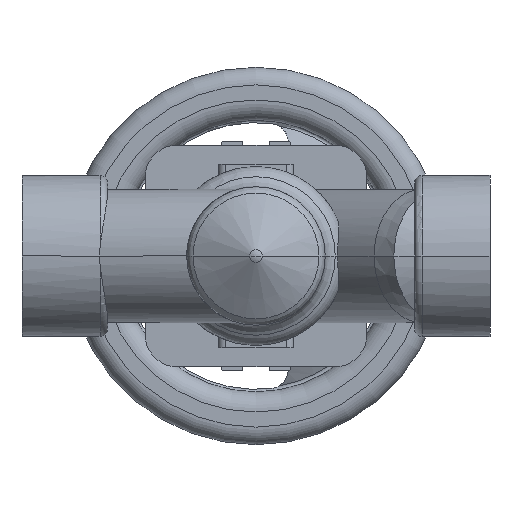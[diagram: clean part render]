
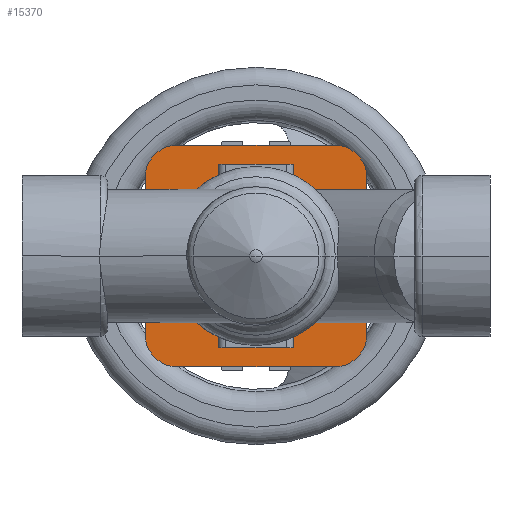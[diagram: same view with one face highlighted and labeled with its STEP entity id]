
A CAD part, front view. The second image highlights one B-rep face of the part: STEP entity #15370.
In plain terms, the highlighted planar face has unit normal (0, -1, 0).
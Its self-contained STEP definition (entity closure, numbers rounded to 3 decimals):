
#3360=CARTESIAN_POINT('',(78.,56.5,32.175));
#3370=VERTEX_POINT('',#3360);
#3990=CARTESIAN_POINT('',(108.,56.5,32.175));
#4000=VERTEX_POINT('',#3990);
#4030=CARTESIAN_POINT('',(93.,56.5,0.));
#4040=DIRECTION('',(0.,1.,0.));
#4050=DIRECTION('',(1.,0.,0.));
#4060=AXIS2_PLACEMENT_3D('',#4030,#4040,#4050);
#4070=CIRCLE('',#4060,35.5);
#4080=CARTESIAN_POINT('',(118.775,56.5,24.411));
#4090=VERTEX_POINT('',#4080);
#4100=EDGE_CURVE('',#4000,#4090,#4070,.T.);
#5050=CARTESIAN_POINT('',(57.5,56.5,0.));
#5060=VERTEX_POINT('',#5050);
#5090=CARTESIAN_POINT('',(93.,56.5,0.));
#5100=DIRECTION('',(0.,1.,0.));
#5110=DIRECTION('',(1.,0.,0.));
#5120=AXIS2_PLACEMENT_3D('',#5090,#5100,#5110);
#5130=CIRCLE('',#5120,35.5);
#5140=EDGE_CURVE('',#5060,#3370,#5130,.T.);
#9120=CARTESIAN_POINT('',(137.113,56.5,-12.24));
#9130=VERTEX_POINT('',#9120);
#9160=CARTESIAN_POINT('',(104.439,56.5,0.));
#9170=DIRECTION('',(0.,1.,0.));
#9180=DIRECTION('',(-1.,0.,0.));
#9190=AXIS2_PLACEMENT_3D('',#9160,#9170,#9180);
#9200=ELLIPSE('',#9190,36.839,26.5);
#9210=CARTESIAN_POINT('',(118.775,56.5,-24.411));
#9220=VERTEX_POINT('',#9210);
#9230=EDGE_CURVE('',#9130,#9220,#9200,.T.);
#11230=CARTESIAN_POINT('',(108.,56.5,-36.5));
#11240=VERTEX_POINT('',#11230);
#11270=CARTESIAN_POINT('',(116.375,56.5,-36.5));
#11280=DIRECTION('',(-1.,0.,0.));
#11290=VECTOR('',#11280,1.);
#11300=LINE('',#11270,#11290);
#11310=CARTESIAN_POINT('',(78.,56.5,-36.5));
#11320=VERTEX_POINT('',#11310);
#11330=EDGE_CURVE('',#11240,#11320,#11300,.T.);
#12540=CARTESIAN_POINT('',(108.,56.5,18.25));
#12550=DIRECTION('',(0.,0.,-1.));
#12560=VECTOR('',#12550,1.);
#12570=LINE('',#12540,#12560);
#12580=CARTESIAN_POINT('',(108.,56.5,-32.175));
#12590=VERTEX_POINT('',#12580);
#12600=EDGE_CURVE('',#12590,#11240,#12570,.T.);
#14030=CARTESIAN_POINT('',(139.75,56.5,0.));
#14040=DIRECTION('',(0.,-1.,0.));
#14050=DIRECTION('',(-1.,0.,0.));
#14060=AXIS2_PLACEMENT_3D('',#14030,#14040,#14050);
#14070=PLANE('',#14060);
#14080=CARTESIAN_POINT('',(137.113,56.5,-15.556));
#14090=DIRECTION('',(0.,0.,1.));
#14100=VECTOR('',#14090,1.);
#14110=LINE('',#14080,#14100);
#14120=CARTESIAN_POINT('',(137.113,56.5,-31.113));
#14130=VERTEX_POINT('',#14120);
#14140=EDGE_CURVE('',#14130,#9130,#14110,.T.);
#14150=ORIENTED_EDGE('',*,*,#14140,.T.);
#14160=CARTESIAN_POINT('',(124.113,56.5,-31.113));
#14170=DIRECTION('',(0.,-1.,0.));
#14180=DIRECTION('',(1.,0.,0.));
#14190=AXIS2_PLACEMENT_3D('',#14160,#14170,#14180);
#14200=CIRCLE('',#14190,13.);
#14210=CARTESIAN_POINT('',(124.113,56.5,-44.113));
#14220=VERTEX_POINT('',#14210);
#14230=EDGE_CURVE('',#14220,#14130,#14200,.T.);
#14240=ORIENTED_EDGE('',*,*,#14230,.T.);
#14250=CARTESIAN_POINT('',(100.819,56.5,-44.113));
#14260=DIRECTION('',(1.,0.,0.));
#14270=VECTOR('',#14260,1.);
#14280=LINE('',#14250,#14270);
#14290=CARTESIAN_POINT('',(61.887,56.5,-44.113));
#14300=VERTEX_POINT('',#14290);
#14310=EDGE_CURVE('',#14300,#14220,#14280,.T.);
#14320=ORIENTED_EDGE('',*,*,#14310,.T.);
#14330=CARTESIAN_POINT('',(61.887,56.5,-31.113));
#14340=DIRECTION('',(0.,-1.,0.));
#14350=DIRECTION('',(0.,0.,-1.));
#14360=AXIS2_PLACEMENT_3D('',#14330,#14340,#14350);
#14370=CIRCLE('',#14360,13.);
#14380=CARTESIAN_POINT('',(48.887,56.5,-31.113));
#14390=VERTEX_POINT('',#14380);
#14400=EDGE_CURVE('',#14390,#14300,#14370,.T.);
#14410=ORIENTED_EDGE('',*,*,#14400,.T.);
#14420=CARTESIAN_POINT('',(48.887,56.5,15.556));
#14430=DIRECTION('',(0.,0.,-1.));
#14440=VECTOR('',#14430,1.);
#14450=LINE('',#14420,#14440);
#14460=CARTESIAN_POINT('',(48.887,56.5,31.113));
#14470=VERTEX_POINT('',#14460);
#14480=EDGE_CURVE('',#14470,#14390,#14450,.T.);
#14490=ORIENTED_EDGE('',*,*,#14480,.T.);
#14500=CARTESIAN_POINT('',(61.887,56.5,31.113));
#14510=DIRECTION('',(0.,-1.,0.));
#14520=DIRECTION('',(-1.,0.,0.));
#14530=AXIS2_PLACEMENT_3D('',#14500,#14510,#14520);
#14540=CIRCLE('',#14530,13.);
#14550=CARTESIAN_POINT('',(61.887,56.5,44.113));
#14560=VERTEX_POINT('',#14550);
#14570=EDGE_CURVE('',#14560,#14470,#14540,.T.);
#14580=ORIENTED_EDGE('',*,*,#14570,.T.);
#14590=CARTESIAN_POINT('',(131.931,56.5,44.113));
#14600=DIRECTION('',(-1.,0.,0.));
#14610=VECTOR('',#14600,1.);
#14620=LINE('',#14590,#14610);
#14630=CARTESIAN_POINT('',(124.113,56.5,44.113));
#14640=VERTEX_POINT('',#14630);
#14650=EDGE_CURVE('',#14640,#14560,#14620,.T.);
#14660=ORIENTED_EDGE('',*,*,#14650,.T.);
#14670=CARTESIAN_POINT('',(124.113,56.5,31.113));
#14680=DIRECTION('',(0.,-1.,0.));
#14690=DIRECTION('',(0.,0.,1.));
#14700=AXIS2_PLACEMENT_3D('',#14670,#14680,#14690);
#14710=CIRCLE('',#14700,13.);
#14720=CARTESIAN_POINT('',(137.113,56.5,31.113));
#14730=VERTEX_POINT('',#14720);
#14740=EDGE_CURVE('',#14730,#14640,#14710,.T.);
#14750=ORIENTED_EDGE('',*,*,#14740,.T.);
#14760=CARTESIAN_POINT('',(137.113,56.5,-15.556));
#14770=DIRECTION('',(0.,0.,1.));
#14780=VECTOR('',#14770,1.);
#14790=LINE('',#14760,#14780);
#14800=CARTESIAN_POINT('',(137.113,56.5,12.24));
#14810=VERTEX_POINT('',#14800);
#14820=EDGE_CURVE('',#14810,#14730,#14790,.T.);
#14830=ORIENTED_EDGE('',*,*,#14820,.T.);
#14840=CARTESIAN_POINT('',(104.439,56.5,0.));
#14850=DIRECTION('',(0.,1.,0.));
#14860=DIRECTION('',(-1.,0.,0.));
#14870=AXIS2_PLACEMENT_3D('',#14840,#14850,#14860);
#14880=ELLIPSE('',#14870,36.839,26.5);
#14890=EDGE_CURVE('',#4090,#14810,#14880,.T.);
#14900=ORIENTED_EDGE('',*,*,#14890,.T.);
#14910=ORIENTED_EDGE('',*,*,#4100,.T.);
#14920=CARTESIAN_POINT('',(108.,56.5,18.25));
#14930=DIRECTION('',(0.,0.,-1.));
#14940=VECTOR('',#14930,1.);
#14950=LINE('',#14920,#14940);
#14960=CARTESIAN_POINT('',(108.,56.5,36.5));
#14970=VERTEX_POINT('',#14960);
#14980=EDGE_CURVE('',#14970,#4000,#14950,.T.);
#14990=ORIENTED_EDGE('',*,*,#14980,.T.);
#15000=CARTESIAN_POINT('',(116.375,56.5,36.5));
#15010=DIRECTION('',(1.,0.,0.));
#15020=VECTOR('',#15010,1.);
#15030=LINE('',#15000,#15020);
#15040=CARTESIAN_POINT('',(78.,56.5,36.5));
#15050=VERTEX_POINT('',#15040);
#15060=EDGE_CURVE('',#15050,#14970,#15030,.T.);
#15070=ORIENTED_EDGE('',*,*,#15060,.T.);
#15080=CARTESIAN_POINT('',(78.,56.5,18.25));
#15090=DIRECTION('',(0.,0.,1.));
#15100=VECTOR('',#15090,1.);
#15110=LINE('',#15080,#15100);
#15120=EDGE_CURVE('',#3370,#15050,#15110,.T.);
#15130=ORIENTED_EDGE('',*,*,#15120,.T.);
#15140=ORIENTED_EDGE('',*,*,#5140,.T.);
#15150=CARTESIAN_POINT('',(78.,56.5,-32.175));
#15160=VERTEX_POINT('',#15150);
#15170=EDGE_CURVE('',#15160,#5060,#5130,.T.);
#15180=ORIENTED_EDGE('',*,*,#15170,.T.);
#15190=CARTESIAN_POINT('',(78.,56.5,18.25));
#15200=DIRECTION('',(0.,0.,1.));
#15210=VECTOR('',#15200,1.);
#15220=LINE('',#15190,#15210);
#15230=EDGE_CURVE('',#11320,#15160,#15220,.T.);
#15240=ORIENTED_EDGE('',*,*,#15230,.T.);
#15250=ORIENTED_EDGE('',*,*,#11330,.T.);
#15260=ORIENTED_EDGE('',*,*,#12600,.T.);
#15270=CARTESIAN_POINT('',(93.,56.5,0.));
#15280=DIRECTION('',(0.,1.,0.));
#15290=DIRECTION('',(1.,0.,0.));
#15300=AXIS2_PLACEMENT_3D('',#15270,#15280,#15290);
#15310=CIRCLE('',#15300,35.5);
#15320=EDGE_CURVE('',#9220,#12590,#15310,.T.);
#15330=ORIENTED_EDGE('',*,*,#15320,.T.);
#15340=ORIENTED_EDGE('',*,*,#9230,.T.);
#15350=EDGE_LOOP('',(#15340,#15330,#15260,#15250,#15240,#15180,#15140,
#15130,#15070,#14990,#14910,#14900,#14830,#14750,#14660,#14580,#14490,
#14410,#14320,#14240,#14150));
#15360=FACE_OUTER_BOUND('',#15350,.T.);
#15370=ADVANCED_FACE('',(#15360),#14070,.T.);
